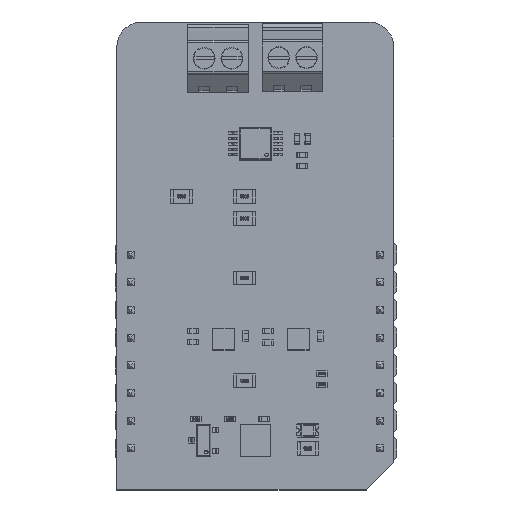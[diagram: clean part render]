
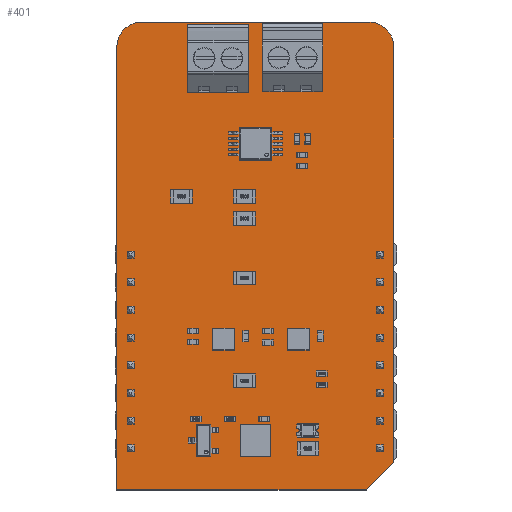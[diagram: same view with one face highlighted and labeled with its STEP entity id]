
A CAD part, top view. The second image highlights one B-rep face of the part: STEP entity #401.
In plain terms, the highlighted planar face has unit normal (0, 0, 1).
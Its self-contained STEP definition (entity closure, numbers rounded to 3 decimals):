
#172 = VERTEX_POINT('',#173);
#173 = CARTESIAN_POINT('',(-1.27,-3.81,1.59));
#179 = EDGE_CURVE('',#172,#180,#182,.T.);
#180 = VERTEX_POINT('',#181);
#181 = CARTESIAN_POINT('',(-1.27,36.83,1.59));
#182 = LINE('',#183,#184);
#183 = CARTESIAN_POINT('',(-1.27,-3.81,1.59));
#184 = VECTOR('',#185,1.);
#185 = DIRECTION('',(0.,1.,0.));
#210 = EDGE_CURVE('',#180,#211,#213,.T.);
#211 = VERTEX_POINT('',#212);
#212 = CARTESIAN_POINT('',(1.016,39.116,1.59));
#213 = CIRCLE('',#214,2.288);
#214 = AXIS2_PLACEMENT_3D('',#215,#216,#217);
#215 = CARTESIAN_POINT('',(1.018,36.828,1.59));
#216 = DIRECTION('',(0.,0.,-1.));
#217 = DIRECTION('',(-1.,0.001,0.));
#243 = EDGE_CURVE('',#211,#244,#246,.T.);
#244 = VERTEX_POINT('',#245);
#245 = CARTESIAN_POINT('',(21.844,39.116,1.59));
#246 = LINE('',#247,#248);
#247 = CARTESIAN_POINT('',(1.016,39.116,1.59));
#248 = VECTOR('',#249,1.);
#249 = DIRECTION('',(1.,0.,0.));
#274 = EDGE_CURVE('',#244,#275,#277,.T.);
#275 = VERTEX_POINT('',#276);
#276 = CARTESIAN_POINT('',(24.13,36.83,1.59));
#277 = CIRCLE('',#278,2.288);
#278 = AXIS2_PLACEMENT_3D('',#279,#280,#281);
#279 = CARTESIAN_POINT('',(21.842,36.828,1.59));
#280 = DIRECTION('',(0.,0.,-1.));
#281 = DIRECTION('',(0.001,1.,0.));
#307 = EDGE_CURVE('',#275,#308,#310,.T.);
#308 = VERTEX_POINT('',#309);
#309 = CARTESIAN_POINT('',(24.13,-1.27,1.59));
#310 = LINE('',#311,#312);
#311 = CARTESIAN_POINT('',(24.13,36.83,1.59));
#312 = VECTOR('',#313,1.);
#313 = DIRECTION('',(0.,-1.,0.));
#338 = EDGE_CURVE('',#308,#339,#341,.T.);
#339 = VERTEX_POINT('',#340);
#340 = CARTESIAN_POINT('',(21.59,-3.81,1.59));
#341 = LINE('',#342,#343);
#342 = CARTESIAN_POINT('',(24.13,-1.27,1.59));
#343 = VECTOR('',#344,1.);
#344 = DIRECTION('',(-0.707,-0.707,0.));
#369 = EDGE_CURVE('',#339,#172,#370,.T.);
#370 = LINE('',#371,#372);
#371 = CARTESIAN_POINT('',(21.59,-3.81,1.59));
#372 = VECTOR('',#373,1.);
#373 = DIRECTION('',(-1.,0.,0.));
#401 = ADVANCED_FACE('',(#402),#411,.F.);
#402 = FACE_BOUND('',#403,.F.);
#403 = EDGE_LOOP('',(#404,#405,#406,#407,#408,#409,#410));
#404 = ORIENTED_EDGE('',*,*,#179,.T.);
#405 = ORIENTED_EDGE('',*,*,#210,.T.);
#406 = ORIENTED_EDGE('',*,*,#243,.T.);
#407 = ORIENTED_EDGE('',*,*,#274,.T.);
#408 = ORIENTED_EDGE('',*,*,#307,.T.);
#409 = ORIENTED_EDGE('',*,*,#338,.T.);
#410 = ORIENTED_EDGE('',*,*,#369,.T.);
#411 = PLANE('',#412);
#412 = AXIS2_PLACEMENT_3D('',#413,#414,#415);
#413 = CARTESIAN_POINT('',(11.278,17.566,1.59));
#414 = DIRECTION('',(-0.,-0.,-1.));
#415 = DIRECTION('',(-1.,0.,0.));
